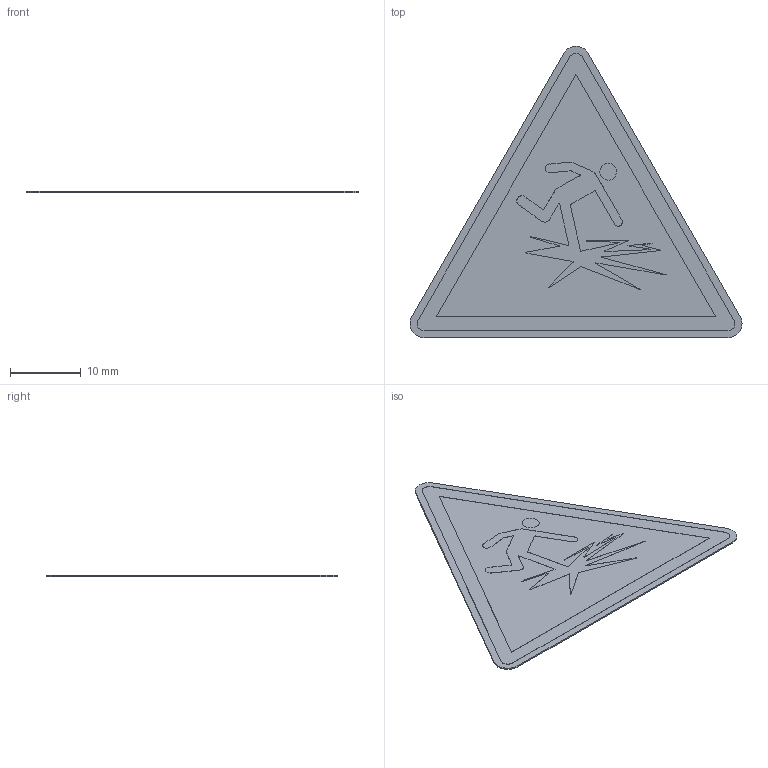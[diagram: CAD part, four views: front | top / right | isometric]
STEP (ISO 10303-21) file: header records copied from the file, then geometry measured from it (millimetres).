
FILE_DESCRIPTION (( 'STEP AP214' ), '1' );
FILE_NAME ('W043_Warnung vor dünnem Eis.STEP', '2022-03-03T14:12:52', ( '' ), ( '' ), 'SwSTEP 2.0', 'SolidWorks 2021', '' );
FILE_SCHEMA (( 'AUTOMOTIVE_DESIGN' ));
Length unit declared in the file: millimetre
Products named in the file (1): W043_Warnung vor dünnem Eis
Bounding box: 47.07 x 41.3 x 0.22 mm (x, y, z)
Volume: 221 mm3; surface area: 2184 mm2
Topology: 1 solids, 1 shells, 248 faces, 726 edges, 484 vertices
Faces by surface type: plane 206, cylinder 42
Entity records: 10797 total; most frequent: CARTESIAN_POINT 1459, ORIENTED_EDGE 1452, DIRECTION 1308, EDGE_CURVE 726, VECTOR 642, LINE 642, VERTEX_POINT 484, AXIS2_PLACEMENT_3D 333
